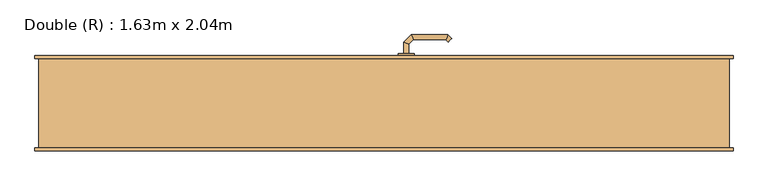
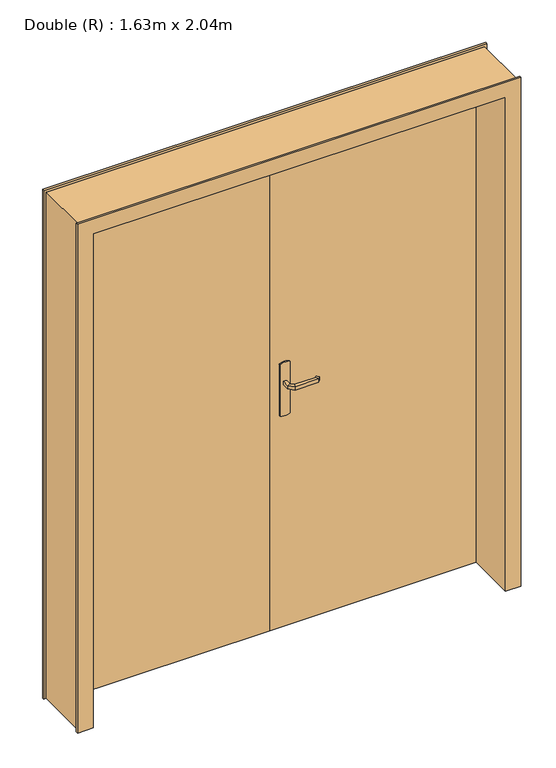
"""IFC4 building model written with IfcOpenShell, lengths in millimetres: door geometry, Double (R) : 1.63m x 2.04m."""

from ifc_helpers import new_model, si_unit, point, frame, frame_2d, origin, origin_with_axes, place, context, project, spatial, polyline, circle_curve, ellipse_curve, trimmed, segment, composite_curve, outline, extrude, faceted_brep, source, transform, mapped, element, save
from ifc_brep_helpers import plane_surface, cylinder_surface, advanced_brep


def double_r_1_63m_x_2_04m_f9c3b69e(model_context):
    return source(origin(), model_context, "Body", "SolidModel", [
        advanced_brep(
        [(61.0, 73.0, 993.0), (49.0, 73.0, 993.0), (49.0, 73.0, 1007.0), (61.0, 73.0, 1007.0), (61.0, 50.5147955, 1007.0), (61.0, 50.5147955, 993.0), (49.0, 45.5442327, 1007.0), (49.0, 45.5442327, 993.0), (72.4852814, 39.0295141, 1007.0), (72.4852814, 39.0295141, 993.0), (67.5147186, 27.0295141, 1007.0), (67.5147186, 27.0295141, 993.0), (152.5605023, 39.0295141, 1007.0), (152.5605023, 39.0295141, 993.0), (157.531065, 27.0295141, 1007.0), (157.531065, 27.0295141, 993.0), (157.8742108, 44.3432226, 993.0), (157.8742108, 44.3432226, 1007.0), (166.3594922, 35.8579412, 1007.0), (166.3594922, 35.8579412, 993.0)],
        [
            (0, 1, circle_curve(frame((55.0, 73.0, 1013.0457722), z_axis=(0.0, 1.0, 0.0), x_axis=(-1.0, 0.0, 0.0)), 20.9244589)),
            (1, 2),
            (2, 3, circle_curve(frame((55.0, 73.0, 986.9542278), z_axis=(0.0, 1.0, 0.0), x_axis=(-1.0, 0.0, 0.0)), 20.9244589)),
            (3, 0),
            (3, 4),
            (4, 5),
            (5, 0),
            (2, 6),
            (6, 4, ellipse_curve(frame((55.0, 48.0295141, 986.9542278), z_axis=(-0.38268343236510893, 0.9238795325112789, 0.0), x_axis=(0.9238795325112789, 0.3826834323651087, 0.0)), 22.6484711, 20.9244589)),
            (1, 7),
            (7, 6),
            (5, 7, ellipse_curve(frame((55.0, 48.0295141, 1013.0457722), z_axis=(-0.38268343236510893, 0.9238795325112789, 0.0), x_axis=(0.9238795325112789, 0.3826834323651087, 0.0)), 22.6484711, 20.9244589)),
            (4, 8),
            (8, 9),
            (9, 5),
            (6, 10),
            (10, 8, ellipse_curve(frame((70.0, 33.0295141, 986.9542278), z_axis=(-0.9238795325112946, 0.38268343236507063, 0.0), x_axis=(0.3826834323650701, 0.9238795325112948, 0.0)), 22.6484711, 20.9244589)),
            (7, 11),
            (11, 10),
            (9, 11, ellipse_curve(frame((70.0, 33.0295141, 1013.0457722), z_axis=(-0.9238795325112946, 0.38268343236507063, 0.0), x_axis=(0.3826834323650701, 0.9238795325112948, 0.0)), 22.6484711, 20.9244589)),
            (8, 12),
            (12, 13),
            (13, 9),
            (10, 14),
            (14, 12, ellipse_curve(frame((155.0457837, 33.0295141, 986.9542278), z_axis=(-0.9238795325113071, -0.38268343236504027, 0.0), x_axis=(-0.38268343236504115, 0.9238795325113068, 0.0)), 22.6484711, 20.9244589)),
            (11, 15),
            (15, 14),
            (13, 15, ellipse_curve(frame((155.0457837, 33.0295141, 1013.0457722), z_axis=(-0.9238795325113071, -0.38268343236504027, 0.0), x_axis=(-0.38268343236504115, 0.9238795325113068, 0.0)), 22.6484711, 20.9244589)),
            (16, 17),
            (17, 18, circle_curve(frame((162.1168515, 40.1005819, 986.9542278), z_axis=(0.7071067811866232, 0.7071067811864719, 0.0), x_axis=(0.7071067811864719, -0.7071067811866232, 0.0)), 20.9244589)),
            (18, 19),
            (19, 16, circle_curve(frame((162.1168515, 40.1005819, 1013.0457722), z_axis=(0.7071067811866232, 0.7071067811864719, 0.0), x_axis=(0.7071067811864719, -0.7071067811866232, 0.0)), 20.9244589)),
            (12, 17),
            (16, 13),
            (14, 18),
            (15, 19),
        ],
        [
            plane_surface(frame((45.7804555, 73.0, 1000.0), z_axis=(0.0, 1.0, 0.0), x_axis=(0.0, 0.0, 1.0))),
            plane_surface(frame((61.0, 73.0, 993.0), z_axis=(1.0, 0.0, 0.0), x_axis=(0.0, -1.0, 0.0))),
            cylinder_surface(frame((55.0, 73.0, 986.9542278), z_axis=(0.0, 1.0, 0.0), x_axis=(-1.0, 0.0, 0.0)), 20.9244589),
            plane_surface(frame((49.0, 73.0, 1007.0), z_axis=(-1.0, 0.0, 0.0), x_axis=(0.0, -1.0, 0.0))),
            cylinder_surface(frame((55.0, 73.0, 1013.0457722), z_axis=(0.0, 1.0, 0.0), x_axis=(-1.0, 0.0, 0.0)), 20.9244589),
            plane_surface(frame((61.0, 50.5147955, 993.0), z_axis=(0.707106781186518, 0.707106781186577, 0.0), x_axis=(0.707106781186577, -0.707106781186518, 0.0))),
            cylinder_surface(frame((55.0, 48.0295141, 986.9542278), z_axis=(-0.7071067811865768, 0.7071067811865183, 0.0), x_axis=(-0.7071067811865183, -0.7071067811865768, 0.0)), 20.9244589),
            plane_surface(frame((49.0, 45.5442327, 1007.0), z_axis=(-0.7071067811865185, -0.7071067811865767, 0.0), x_axis=(0.7071067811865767, -0.7071067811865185, 0.0))),
            cylinder_surface(frame((55.0, 48.0295141, 1013.0457722), z_axis=(-0.7071067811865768, 0.7071067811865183, 0.0), x_axis=(-0.7071067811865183, -0.7071067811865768, 0.0)), 20.9244589),
            plane_surface(frame((72.4852814, 39.0295141, 993.0), z_axis=(0.0, 1.0, 0.0), x_axis=(1.0, 0.0, 0.0))),
            cylinder_surface(frame((70.0, 33.0295141, 986.9542278), z_axis=(-1.0, 0.0, 0.0), x_axis=(0.0, -1.0, 0.0)), 20.9244589),
            plane_surface(frame((67.5147186, 27.0295141, 1007.0), z_axis=(0.0, -1.0, 0.0), x_axis=(1.0, 0.0, 0.0))),
            cylinder_surface(frame((70.0, 33.0295141, 1013.0457722), z_axis=(-1.0, 0.0, 0.0), x_axis=(0.0, -1.0, 0.0)), 20.9244589),
            plane_surface(frame((162.1168515, 40.1005819, 990.7804555), z_axis=(0.7071067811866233, 0.7071067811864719, 0.0), x_axis=(0.7071067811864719, -0.7071067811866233, 0.0))),
            plane_surface(frame((152.5605023, 39.0295141, 993.0), z_axis=(-0.707106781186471, 0.7071067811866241, 0.0), x_axis=(0.7071067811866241, 0.707106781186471, 0.0))),
            cylinder_surface(frame((155.0457837, 33.0295141, 986.9542278), z_axis=(-0.7071067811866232, -0.7071067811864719, 0.0), x_axis=(0.7071067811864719, -0.7071067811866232, 0.0)), 20.9244589),
            plane_surface(frame((157.531065, 27.0295141, 1007.0), z_axis=(0.7071067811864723, -0.7071067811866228, 0.0), x_axis=(0.7071067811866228, 0.7071067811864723, 0.0))),
            cylinder_surface(frame((155.0457837, 33.0295141, 1013.0457722), z_axis=(-0.7071067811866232, -0.7071067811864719, 0.0), x_axis=(0.7071067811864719, -0.7071067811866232, 0.0)), 20.9244589),
        ],
        [
            (0, [[1, 2, 3, 4]]),
            (1, [[5, 6, 7, -4]]),
            (2, [[8, 9, -5, -3]]),
            (3, [[10, 11, -8, -2]]),
            (4, [[-7, 12, -10, -1]]),
            (5, [[13, 14, 15, -6]]),
            (6, [[16, 17, -13, -9]]),
            (7, [[18, 19, -16, -11]]),
            (8, [[-15, 20, -18, -12]]),
            (9, [[21, 22, 23, -14]]),
            (10, [[24, 25, -21, -17]]),
            (11, [[26, 27, -24, -19]]),
            (12, [[-23, 28, -26, -20]]),
            (13, [[29, 30, 31, 32]]),
            (14, [[33, -29, 34, -22]]),
            (15, [[35, -30, -33, -25]]),
            (16, [[36, -31, -35, -27]]),
            (17, [[-34, -32, -36, -28]]),
        ],
    ),
        advanced_brep(
        [(49.0, 123.0, 1007.0), (49.0, 123.0, 993.0), (61.0, 123.0, 993.0), (61.0, 123.0, 1007.0), (61.0, 145.680388, 1007.0), (49.0, 150.6509507, 1007.0), (61.0, 145.680388, 993.0), (49.0, 150.6509507, 993.0), (72.3477727, 157.0281607, 1007.0), (67.37721, 169.0281607, 1007.0), (72.3477727, 157.0281607, 993.0), (67.37721, 169.0281607, 993.0), (152.5333592, 157.0281607, 1007.0), (157.503922, 169.0281607, 1007.0), (152.5333592, 157.0281607, 993.0), (157.503922, 169.0281607, 993.0), (166.3323491, 160.1997336, 1007.0), (157.8470677, 151.7144522, 1007.0), (157.8470677, 151.7144522, 993.0), (166.3323491, 160.1997336, 993.0)],
        [
            (0, 1),
            (1, 2, circle_curve(frame((55.0, 123.0, 1013.0457722), z_axis=(0.0, -1.0, 0.0), x_axis=(1.0, 0.0, 0.0)), 20.9244589)),
            (2, 3),
            (3, 0, circle_curve(frame((55.0, 123.0, 986.9542278), z_axis=(0.0, -1.0, 0.0), x_axis=(1.0, 0.0, 0.0)), 20.9244589)),
            (3, 4),
            (4, 5, ellipse_curve(frame((55.0, 148.1656693, 986.9542278), z_axis=(-0.3826834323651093, -0.9238795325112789, 0.0), x_axis=(0.9238795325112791, -0.38268343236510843, 0.0)), 22.6484711, 20.9244589)),
            (5, 0),
            (2, 6),
            (6, 4),
            (1, 7),
            (7, 6, ellipse_curve(frame((55.0, 148.1656693, 1013.0457722), z_axis=(-0.3826834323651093, -0.9238795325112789, 0.0), x_axis=(0.9238795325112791, -0.38268343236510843, 0.0)), 22.6484711, 20.9244589)),
            (5, 7),
            (4, 8),
            (8, 9, ellipse_curve(frame((69.8624914, 163.0281607, 986.9542278), z_axis=(-0.9238795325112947, -0.38268343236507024, 0.0), x_axis=(0.3826834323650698, -0.9238795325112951, 0.0)), 22.6484711, 20.9244589)),
            (9, 5),
            (6, 10),
            (10, 8),
            (7, 11),
            (11, 10, ellipse_curve(frame((69.8624914, 163.0281607, 1013.0457722), z_axis=(-0.9238795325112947, -0.38268343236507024, 0.0), x_axis=(0.3826834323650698, -0.9238795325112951, 0.0)), 22.6484711, 20.9244589)),
            (9, 11),
            (8, 12),
            (12, 13, ellipse_curve(frame((155.0186406, 163.0281607, 986.9542278), z_axis=(-0.9238795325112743, 0.3826834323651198, 0.0), x_axis=(-0.38268343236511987, -0.9238795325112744, 0.0)), 22.6484711, 20.9244589)),
            (13, 9),
            (10, 14),
            (14, 12),
            (11, 15),
            (15, 14, ellipse_curve(frame((155.0186406, 163.0281607, 1013.0457722), z_axis=(-0.9238795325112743, 0.3826834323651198, 0.0), x_axis=(-0.38268343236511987, -0.9238795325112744, 0.0)), 22.6484711, 20.9244589)),
            (13, 15),
            (16, 17, circle_curve(frame((162.0897084, 155.9570929, 986.9542278), z_axis=(0.7071067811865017, -0.7071067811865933, 0.0), x_axis=(-0.7071067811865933, -0.7071067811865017, 0.0)), 20.9244589)),
            (17, 18),
            (18, 19, circle_curve(frame((162.0897084, 155.9570929, 1013.0457722), z_axis=(0.7071067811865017, -0.7071067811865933, 0.0), x_axis=(-0.7071067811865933, -0.7071067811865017, 0.0)), 20.9244589)),
            (19, 16),
            (12, 17),
            (16, 13),
            (14, 18),
            (15, 19),
        ],
        [
            plane_surface(frame((45.7804555, 123.0, 1000.0), z_axis=(0.0, -1.0, 0.0), x_axis=(0.0, 0.0, -1.0))),
            cylinder_surface(frame((55.0, 123.0, 986.9542278), z_axis=(0.0, -1.0, 0.0), x_axis=(1.0, 0.0, 0.0)), 20.9244589),
            plane_surface(frame((61.0, 123.0, 1007.0), z_axis=(1.0, 0.0, 0.0), x_axis=(0.0, 1.0, 0.0))),
            cylinder_surface(frame((55.0, 123.0, 1013.0457722), z_axis=(0.0, -1.0, 0.0), x_axis=(1.0, 0.0, 0.0)), 20.9244589),
            plane_surface(frame((49.0, 123.0, 993.0), z_axis=(-1.0, 0.0, 0.0), x_axis=(0.0, 1.0, 0.0))),
            cylinder_surface(frame((55.0, 148.1656693, 986.9542278), z_axis=(-0.7071067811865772, -0.7071067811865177, 0.0), x_axis=(0.7071067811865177, -0.7071067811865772, 0.0)), 20.9244589),
            plane_surface(frame((61.0, 145.680388, 1007.0), z_axis=(0.7071067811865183, -0.7071067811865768, 0.0), x_axis=(0.7071067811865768, 0.7071067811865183, 0.0))),
            cylinder_surface(frame((55.0, 148.1656693, 1013.0457722), z_axis=(-0.7071067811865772, -0.7071067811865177, 0.0), x_axis=(0.7071067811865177, -0.7071067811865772, 0.0)), 20.9244589),
            plane_surface(frame((49.0, 150.6509507, 993.0), z_axis=(-0.707106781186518, 0.707106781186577, 0.0), x_axis=(0.707106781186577, 0.707106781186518, 0.0))),
            cylinder_surface(frame((69.8624914, 163.0281607, 986.9542278), z_axis=(-1.0, 0.0, 0.0), x_axis=(0.0, -1.0, 0.0)), 20.9244589),
            plane_surface(frame((72.3477727, 157.0281607, 1007.0), z_axis=(0.0, -1.0, 0.0), x_axis=(1.0, 0.0, 0.0))),
            cylinder_surface(frame((69.8624914, 163.0281607, 1013.0457722), z_axis=(-1.0, 0.0, 0.0), x_axis=(0.0, -1.0, 0.0)), 20.9244589),
            plane_surface(frame((67.37721, 169.0281607, 993.0), z_axis=(0.0, 1.0, 0.0), x_axis=(1.0, 0.0, 0.0))),
            plane_surface(frame((162.0897084, 155.9570929, 1009.2195445), z_axis=(0.7071067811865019, -0.7071067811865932, 0.0), x_axis=(0.7071067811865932, 0.7071067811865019, 0.0))),
            cylinder_surface(frame((155.0186406, 163.0281607, 986.9542278), z_axis=(-0.7071067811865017, 0.7071067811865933, 0.0), x_axis=(-0.7071067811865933, -0.7071067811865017, 0.0)), 20.9244589),
            plane_surface(frame((152.5333592, 157.0281607, 1007.0), z_axis=(-0.7071067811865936, -0.7071067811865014, 0.0), x_axis=(0.7071067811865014, -0.7071067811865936, 0.0))),
            cylinder_surface(frame((155.0186406, 163.0281607, 1013.0457722), z_axis=(-0.7071067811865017, 0.7071067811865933, 0.0), x_axis=(-0.7071067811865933, -0.7071067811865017, 0.0)), 20.9244589),
            plane_surface(frame((157.503922, 169.0281607, 993.0), z_axis=(0.707106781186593, 0.7071067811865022, 0.0), x_axis=(0.7071067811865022, -0.707106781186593, 0.0))),
        ],
        [
            (0, [[1, 2, 3, 4]]),
            (1, [[5, 6, 7, -4]]),
            (2, [[8, 9, -5, -3]]),
            (3, [[10, 11, -8, -2]]),
            (4, [[-7, 12, -10, -1]]),
            (5, [[13, 14, 15, -6]]),
            (6, [[16, 17, -13, -9]]),
            (7, [[18, 19, -16, -11]]),
            (8, [[-15, 20, -18, -12]]),
            (9, [[21, 22, 23, -14]]),
            (10, [[24, 25, -21, -17]]),
            (11, [[26, 27, -24, -19]]),
            (12, [[-23, 28, -26, -20]]),
            (13, [[29, 30, 31, 32]]),
            (14, [[33, -29, 34, -22]]),
            (15, [[35, -30, -33, -25]]),
            (16, [[36, -31, -35, -27]]),
            (17, [[-34, -32, -36, -28]]),
        ],
    ),
        extrude(outline(composite_curve([segment(trimmed(circle_curve(frame_2d((1045.3589838, 55.0)), 40.0), [point((1080.0, 75.0))], [point((1080.0, 35.0))], False, "CARTESIAN"), True, "CONTINUOUS"), segment(polyline([(1080.0, 35.0), (870.0, 35.0)]), True, "CONTINUOUS"), segment(trimmed(circle_curve(frame_2d((904.6410162, 55.0)), 40.0), [point((870.0, 35.0))], [point((870.0, 75.0))], False, "CARTESIAN"), True, "CONTINUOUS"), segment(polyline([(870.0, 75.0), (1080.0, 75.0)]), True, "CONTINUOUS")], self_intersect=False)), frame((0.0, 73.0, 0.0), z_axis=(0.0, 1.0, 0.0), x_axis=(0.0, 0.0, 1.0)), (0.0, 0.0, 1.0), 5.0),
        extrude(outline(composite_curve([segment(trimmed(circle_curve(frame_2d((904.6410162, 55.0)), 40.0), [point((870.0, 35.0))], [point((870.0, 75.0))], False, "CARTESIAN"), True, "CONTINUOUS"), segment(polyline([(870.0, 75.0), (1080.0, 75.0)]), True, "CONTINUOUS"), segment(trimmed(circle_curve(frame_2d((1045.3589838, 55.0)), 40.0), [point((1080.0, 75.0))], [point((1080.0, 35.0))], False, "CARTESIAN"), True, "CONTINUOUS"), segment(polyline([(1080.0, 35.0), (870.0, 35.0)]), True, "CONTINUOUS")], self_intersect=False)), frame((0.0, 118.0, 0.0), z_axis=(0.0, 1.0, 0.0), x_axis=(0.0, 0.0, 1.0)), (0.0, 0.0, 1.0), 5.0),
        faceted_brep([(-850.0, 110.0, 0.0), (-860.0, 110.0, 0.0), (-860.0, 118.0, 0.0), (-815.0, 118.0, 0.0), (-815.0, 78.0, 0.0), (-800.0, 78.0, 0.0), (-800.0, -118.0, 0.0), (-860.0, -118.0, 0.0), (-860.0, -110.0, 0.0), (-850.0, -110.0, 0.0), (-850.0, -110.0, 2075.0), (-850.0, 110.0, 2075.0), (-860.0, -110.0, 2085.0), (860.0, -110.0, 2085.0), (860.0, -110.0, 0.0), (850.0, -110.0, 0.0), (850.0, -110.0, 2075.0), (-860.0, -118.0, 2085.0), (-800.0, -118.0, 2025.0), (800.0, -118.0, 2025.0), (800.0, -118.0, 0.0), (860.0, -118.0, 0.0), (860.0, -118.0, 2085.0), (-800.0, 78.0, 2025.0), (-815.0, 78.0, 2040.0), (815.0, 78.0, 2040.0), (815.0, 78.0, 0.0), (800.0, 78.0, 0.0), (800.0, 78.0, 2025.0), (-815.0, 118.0, 2040.0), (-860.0, 118.0, 2085.0), (860.0, 118.0, 2085.0), (860.0, 118.0, 0.0), (815.0, 118.0, 0.0), (815.0, 118.0, 2040.0), (-860.0, 110.0, 2085.0), (850.0, 110.0, 2075.0), (850.0, 110.0, 0.0), (860.0, 110.0, 0.0), (860.0, 110.0, 2085.0)], [[[0, 1, 2, 3, 4, 5, 6, 7, 8, 9]], [[9, 10, 11, 0]], [[8, 12, 13, 14, 15, 16, 10, 9]], [[7, 17, 12, 8]], [[6, 18, 19, 20, 21, 22, 17, 7]], [[5, 23, 18, 6]], [[4, 24, 25, 26, 27, 28, 23, 5]], [[3, 29, 24, 4]], [[2, 30, 31, 32, 33, 34, 29, 3]], [[1, 35, 30, 2]], [[0, 11, 36, 37, 38, 39, 35, 1]], [[16, 15, 37, 36]], [[37, 15, 14, 21, 20, 27, 26, 33, 32, 38]], [[22, 21, 14, 13]], [[28, 27, 20, 19]], [[34, 33, 26, 25]], [[39, 38, 32, 31]], [[10, 16, 36, 11]], [[17, 22, 13, 12]], [[23, 28, 19, 18]], [[29, 34, 25, 24]], [[35, 39, 31, 30]]]),
        extrude(outline(polyline([(815.0, 118.0), (815.0, 78.0), (0.0, 78.0), (0.0, 118.0), (815.0, 118.0)])), origin_with_axes(), (0.0, 0.0, 1.0), 2040.0),
        extrude(outline(polyline([(0.0, 118.0), (0.0, 78.0), (-815.0, 78.0), (-815.0, 118.0), (0.0, 118.0)])), origin_with_axes(), (0.0, 0.0, 1.0), 2040.0),
    ])


if __name__ == "__main__":
    model = new_model("IFC4")
    model_context = context("Model", 3, world=origin())
    ifc_project = project(units=[si_unit("LENGTHUNIT", "METRE", prefix="MILLI")], contexts=[model_context])
    site = spatial("IfcSite", under=ifc_project)
    building = spatial("IfcBuilding", under=site)
    placement = place(None, origin())
    double_r_1_63m_x_2_04m_shape = double_r_1_63m_x_2_04m_f9c3b69e(model_context)
    element("IfcDoor", 1, ObjectType="Double (R) : 1.63m x 2.04m", at=placement, inside=building, context=model_context, shape_type="MappedRepresentation", body=[
        mapped(double_r_1_63m_x_2_04m_shape, transform((0.0, 0.0, 0.0), x_axis=(1.0, 0.0, 0.0), y_axis=(0.0, 1.0, 0.0), z_axis=(0.0, 0.0, 1.0))),
    ])
    save(model, "model.ifc")
